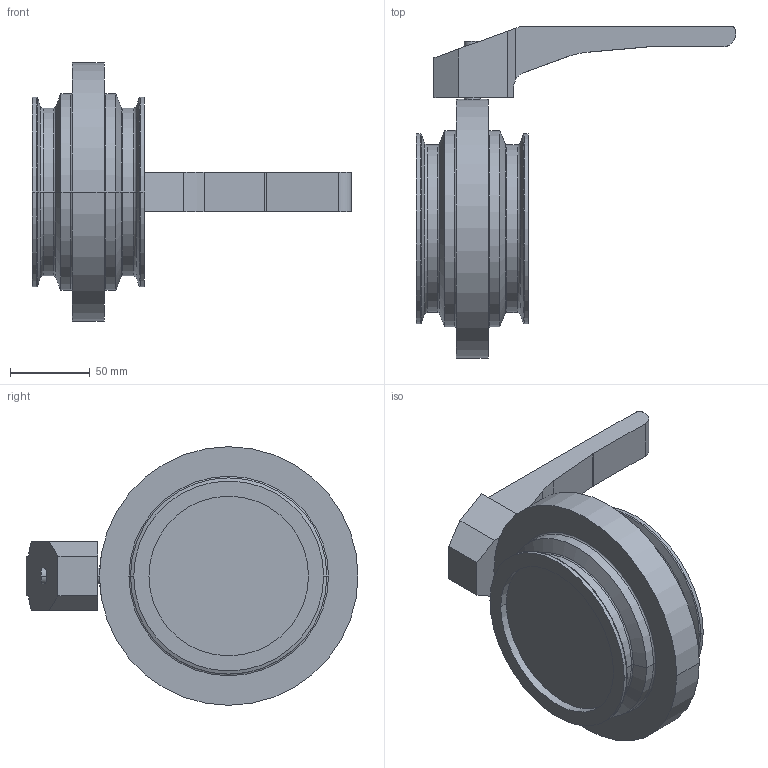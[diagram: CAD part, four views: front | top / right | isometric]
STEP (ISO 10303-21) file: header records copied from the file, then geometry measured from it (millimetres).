
FILE_DESCRIPTION(('OneSpaceDesigner STEP Export'),'2;1');
FILE_NAME('SV1-100-H-12CL.stp','2007-04-19T14:48:52',(''),(''),'OneSpace Designer STEP processor for AP214 (Solid Model)','OneSpace Modeling 15.00 06-Feb-2007 (C) CoCreate Software GmbH','');
FILE_SCHEMA(('AUTOMOTIVE_DESIGN { 1 0 10303 214 1 1 1 1 }'));
Length unit declared in the file: millimetre
Products named in the file (3): Handhebel-SV-40-100; SV1-100-H-12CL; SV1-100-H-12CL-vereint
Assembly tree (2 placements, depth 2):
  SV1-100-H-12CL-vereint
    SV1-100-H-12CL
    Handhebel-SV-40-100
Bounding box: 200 x 208 x 162 mm (x, y, z)
Volume: 972433.6 mm3; surface area: 99049.6 mm2
Topology: 2 solids, 2 shells, 76 faces, 167 edges, 100 vertices
Faces by surface type: cylinder 27, plane 25, torus 16, cone 8
Entity records: 2283 total; most frequent: CARTESIAN_POINT 683, ORIENTED_EDGE 334, DIRECTION 303, EDGE_CURVE 167, AXIS2_PLACEMENT_3D 113, VERTEX_POINT 100, EDGE_LOOP 81, VECTOR 77
